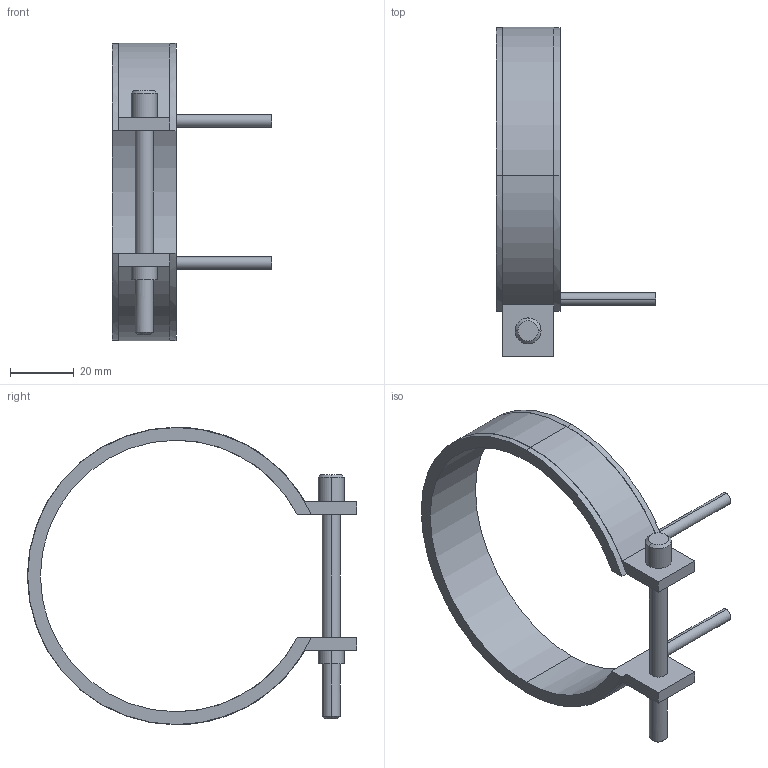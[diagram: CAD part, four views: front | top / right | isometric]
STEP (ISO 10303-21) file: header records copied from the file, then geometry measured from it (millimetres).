
FILE_DESCRIPTION(('CATIA V5 STEP Exchange'),'2;1');
FILE_NAME('C:\Users\Utente\Desktop\IO LAVORO\3D X SITO CF\X SITO\PLASTICA\RF2\14085020.stp','2021-04-06T16:25:34+00:00',('none'),('none'),'CATIA Version 5 Release 20 GA (IN-10)','CATIA V5 STEP AP203','none');
FILE_SCHEMA(('CONFIG_CONTROL_DESIGN'));
Length unit declared in the file: millimetre
Products named in the file (1): 14085020
Bounding box: 50 x 103.1 x 93.2 mm (x, y, z)
Volume: 24315.1 mm3; surface area: 14938.4 mm2
Topology: 1 solids, 1 shells, 45 faces, 116 edges, 76 vertices
Faces by surface type: cylinder 24, plane 17, cone 4
Entity records: 1418 total; most frequent: CARTESIAN_POINT 296, ORIENTED_EDGE 232, DIRECTION 194, EDGE_CURVE 116, AXIS2_PLACEMENT_3D 102, VERTEX_POINT 76, CIRCLE 60, VECTOR 52
